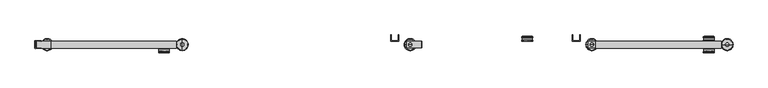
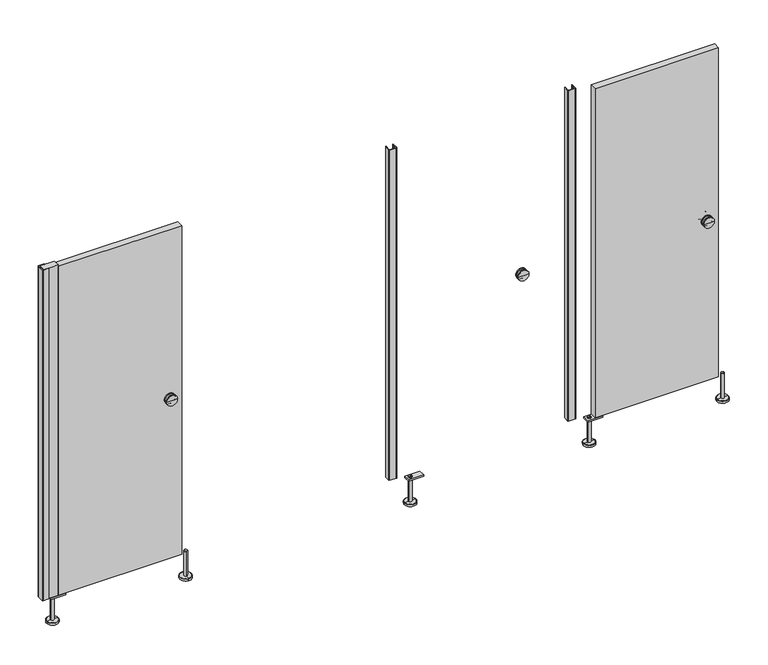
"""IFC4 building model written with IfcOpenShell, lengths in millimetres: proxy geometry, Partition_EuroStyle-Bradley_Corp-ADA-4StandardStall-NEP-LOFT : Partition_EuroStyle-Bradley_Corp-ADA-4StandardStall-NEP-LOFT."""

from ifc_helpers import new_model, si_unit, point, frame, frame_2d, origin, place, context, project, spatial, polyline, circle_curve, ellipse_curve, trimmed, segment, composite_curve, outline, extrude, source, transform, mapped, element, save
from ifc_brep_helpers import plane_surface, cylinder_surface, revolved_surface, advanced_brep


def specialty_equipment_6bcbe845(model_context):
    return source(origin(), model_context, "Body", "SolidModel", [
        advanced_brep(
        [(548.6, -1560.0203251, 1050.0), (577.175, -1560.0203251, 1050.0), (520.025, -1560.0203251, 1050.0), (577.175, -1564.7828251, 1050.0), (520.025, -1564.7828251, 1050.0), (520.025, -1579.0703251, 1050.0), (577.175, -1579.0703251, 1050.0), (577.175, -1583.8328251, 1050.0), (520.025, -1583.8328251, 1050.0), (521.6125, -1577.4828251, 1050.0), (575.5875, -1577.4828251, 1050.0), (521.6125, -1566.3703251, 1050.0), (575.5875, -1566.3703251, 1050.0), (548.6, -1585.4203251, 1050.0)],
        [
            (0, 1),
            (1, 2, circle_curve(frame((548.6, -1560.0203251, 1050.0), z_axis=(0.0, 1.0, 0.0), x_axis=(1.0000000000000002, 0.0, 0.0)), 28.575)),
            (2, 0),
            (2, 1, circle_curve(frame((548.6, -1560.0203251, 1050.0), z_axis=(0.0, 1.0, 0.0), x_axis=(1.0000000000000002, 0.0, 0.0)), 28.575)),
            (1, 3),
            (3, 4, circle_curve(frame((548.6, -1564.7828251, 1050.0), z_axis=(0.0, 1.0, 0.0), x_axis=(1.0000000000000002, 0.0, 0.0)), 28.575)),
            (4, 2),
            (4, 3, circle_curve(frame((548.6, -1564.7828251, 1050.0), z_axis=(0.0, 1.0, 0.0), x_axis=(1.0000000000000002, 0.0, 0.0)), 28.575)),
            (5, 6, circle_curve(frame((548.6, -1579.0703251, 1050.0), z_axis=(0.0, -1.0, 0.0), x_axis=(1.0000000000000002, 0.0, 0.0)), 28.575)),
            (6, 7),
            (7, 8, circle_curve(frame((548.6, -1583.8328251, 1050.0), z_axis=(0.0, 1.0, 0.0), x_axis=(1.0000000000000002, 0.0, 0.0)), 28.575)),
            (8, 5),
            (6, 5, circle_curve(frame((548.6, -1579.0703251, 1050.0), z_axis=(0.0, -1.0, 0.0), x_axis=(1.0000000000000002, 0.0, 0.0)), 28.575)),
            (8, 7, circle_curve(frame((548.6, -1583.8328251, 1050.0), z_axis=(0.0, 1.0, 0.0), x_axis=(1.0000000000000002, 0.0, 0.0)), 28.575)),
            (9, 10, circle_curve(frame((548.6, -1577.4828251, 1050.0), z_axis=(0.0, -1.0, 0.0), x_axis=(1.0000000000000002, 0.0, 0.0)), 26.9875)),
            (10, 6, circle_curve(frame((577.175, -1577.4828251, 1050.0), z_axis=(0.0, 0.0, 1.0), x_axis=(1.0000000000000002, 0.0, 0.0)), 1.5875)),
            (5, 9, circle_curve(frame((520.025, -1577.4828251, 1050.0), z_axis=(0.0, 0.0, 1.0), x_axis=(-1.0000000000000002, 0.0, 0.0)), 1.5875)),
            (10, 9, circle_curve(frame((548.6, -1577.4828251, 1050.0), z_axis=(0.0, -1.0, 0.0), x_axis=(1.0000000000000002, 0.0, 0.0)), 26.9875)),
            (11, 12, circle_curve(frame((548.6, -1566.3703251, 1050.0), z_axis=(0.0, -1.0, 0.0), x_axis=(1.0000000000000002, 0.0, 0.0)), 26.9875)),
            (12, 10),
            (9, 11),
            (12, 11, circle_curve(frame((548.6, -1566.3703251, 1050.0), z_axis=(0.0, -1.0, 0.0), x_axis=(1.0000000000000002, 0.0, 0.0)), 26.9875)),
            (3, 12, circle_curve(frame((577.175, -1566.3703251, 1050.0), z_axis=(0.0, 0.0, 1.0), x_axis=(1.0000000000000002, 0.0, 0.0)), 1.5875)),
            (11, 4, circle_curve(frame((520.025, -1566.3703251, 1050.0), z_axis=(0.0, 0.0, 1.0), x_axis=(-1.0000000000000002, 0.0, 0.0)), 1.5875)),
            (7, 13, circle_curve(frame((552.2941234, -1393.9457959, 1050.0), z_axis=(0.0, 0.0, -1.0), x_axis=(1.0000000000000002, 0.0, 0.0)), 191.5101613)),
            (13, 8, circle_curve(frame((544.9058766, -1393.9457959, 1050.0), z_axis=(0.0, 0.0, -1.0), x_axis=(-1.0000000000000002, 0.0, 0.0)), 191.5101613)),
        ],
        [
            plane_surface(frame((548.6, -1560.0203251, 1050.0), z_axis=(0.0, 1.0, 0.0), x_axis=(1.0, 0.0, 0.0))),
            cylinder_surface(frame((548.6, -1560.0203251, 1050.0), z_axis=(0.0, 1.0000000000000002, 0.0), x_axis=(1.0000000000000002, 0.0, 0.0)), 28.575),
            revolved_surface(trimmed(ellipse_curve(frame((577.175, -1577.4828251, 1050.0), z_axis=(0.0, 0.0, -1.0), x_axis=(1.0000000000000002, 0.0, 0.0)), 1.5875, 1.5875), [point((577.175, -1579.0703251, 1050.0))], [point((575.5875, -1577.4828251, 1050.0))], True, "CARTESIAN"), (548.6, -1560.0203251, 1050.0), (0.0, 1.0000000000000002, 0.0)),
            cylinder_surface(frame((548.6, -1560.0203251, 1050.0), z_axis=(0.0, 1.0000000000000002, 0.0), x_axis=(1.0000000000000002, 0.0, 0.0)), 26.9875),
            revolved_surface(trimmed(ellipse_curve(frame((577.175, -1566.3703251, 1050.0), z_axis=(0.0, 0.0, -1.0), x_axis=(1.0000000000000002, 0.0, 0.0)), 1.5875, 1.5875), [point((575.5875, -1566.3703251, 1050.0))], [point((577.175, -1564.7828251, 1050.0))], True, "CARTESIAN"), (548.6, -1560.0203251, 1050.0), (0.0, 1.0000000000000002, 0.0)),
            revolved_surface(trimmed(ellipse_curve(frame((552.2941234, -1393.9457959, 1050.0), z_axis=(0.0, 0.0, 1.0), x_axis=(1.0000000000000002, 0.0, 0.0)), 191.5101613, 191.5101613), [point((548.6, -1585.4203251, 1050.0))], [point((577.175, -1583.8328251, 1050.0))], True, "CARTESIAN"), (548.6, -1560.0203251, 1050.0), (0.0, 1.0000000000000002, 0.0)),
        ],
        [
            (0, [[1, 2, 3]]),
            (0, [[-3, 4, -1]]),
            (1, [[-2, 5, 6, 7]]),
            (1, [[-4, -7, 8, -5]]),
            (1, [[9, 10, 11, 12]]),
            (1, [[13, -12, 14, -10]]),
            (2, [[15, 16, -9, 17]]),
            (2, [[18, -17, -13, -16]]),
            (3, [[19, 20, -15, 21]]),
            (3, [[22, -21, -18, -20]]),
            (4, [[-6, 23, -19, 24]]),
            (4, [[-8, -24, -22, -23]]),
            (5, [[-11, 25, 26]]),
            (5, [[-14, -26, -25]]),
        ],
    ),
        extrude(outline(polyline([(-43.0030863, -1524.0), (612.1, -1524.0), (612.1, -1560.0203251), (-43.0030863, -1560.0203251), (-43.0030863, -1524.0)])), frame((0.0, 0.0, 150.0), z_axis=(0.0, 0.0, 1.0), x_axis=(1.0, 0.0, 0.0)), (0.0, 0.0, 1.0), 1846.0),
        extrude(outline(composite_curve([segment(polyline([(-94.4999998, -1521.518717), (-94.4999998, -1523.0173026)]), True, "CONTINUOUS"), segment(trimmed(circle_curve(frame_2d((-95.4990918, -1523.0137352)), 0.9990984), [point((-94.4999998, -1523.0173026))], [point((-96.3787798, -1523.4873879))], False, "CARTESIAN"), True, "CONTINUOUS"), segment(polyline([(-96.3787798, -1523.4873879), (-103.6424298, -1523.3662779)]), True, "CONTINUOUS"), segment(trimmed(circle_curve(frame_2d((-104.4999449, -1522.848732)), 1.0015917), [point((-103.6424298, -1523.3662779))], [point((-105.3742398, -1523.3373979))], False, "CARTESIAN"), True, "CONTINUOUS"), segment(polyline([(-105.3742398, -1523.3373979), (-123.0104531, -1523.0433424)]), True, "CONTINUOUS"), segment(trimmed(circle_curve(frame_2d((-122.9997796, -1525.0435342)), 2.0002204), [point((-123.0104531, -1523.0433424))], [point((-125.0, -1525.0435342))], True, "CARTESIAN"), True, "CONTINUOUS"), segment(polyline([(-125.0, -1525.0435342), (-125.0, -1558.9278332)]), True, "CONTINUOUS"), segment(trimmed(circle_curve(frame_2d((-123.0009061, -1558.9768528)), 1.9996948), [point((-125.0, -1558.9278332))], [point((-123.0, -1560.9765475))], True, "CARTESIAN"), True, "CONTINUOUS"), segment(polyline([(-123.0, -1560.9765475), (-105.3739987, -1560.6824961)]), True, "CONTINUOUS"), segment(trimmed(circle_curve(frame_2d((-104.4999449, -1561.1715932)), 1.0015917), [point((-105.3739987, -1560.6824961))], [point((-103.6424298, -1560.6540473))], False, "CARTESIAN"), True, "CONTINUOUS"), segment(polyline([(-103.6424298, -1560.6540473), (-96.3787798, -1560.5329373)]), True, "CONTINUOUS"), segment(trimmed(circle_curve(frame_2d((-95.4990918, -1561.0065899)), 0.9990984), [point((-96.3787798, -1560.5329373))], [point((-94.4999998, -1561.0030225))], False, "CARTESIAN"), True, "CONTINUOUS"), segment(polyline([(-94.4999998, -1561.0030225), (-94.4999998, -1562.5016081), (-124.97082, -1563.0099473)]), True, "CONTINUOUS"), segment(trimmed(circle_curve(frame_2d((-124.97082, -1560.9807672)), 2.02918), [point((-124.97082, -1563.0099473))], [point((-127.0, -1560.9807672))], False, "CARTESIAN"), True, "CONTINUOUS"), segment(polyline([(-127.0, -1560.9807672), (-127.0, -1523.0395579)]), True, "CONTINUOUS"), segment(trimmed(circle_curve(frame_2d((-124.97082, -1523.0395579)), 2.02918), [point((-127.0, -1523.0395579))], [point((-124.97082, -1521.0103779))], False, "CARTESIAN"), True, "CONTINUOUS"), segment(polyline([(-124.97082, -1521.0103779), (-94.4999998, -1521.518717)]), True, "CONTINUOUS")], self_intersect=False)), frame((0.0, 0.0, 150.0), z_axis=(0.0, 0.0, 1.0), x_axis=(1.0, 0.0, 0.0)), (0.0, 0.0, 1.0), 1855.0),
        extrude(outline(polyline([(146.0000008, -82.1018307), (138.0669895, -82.1018307), (138.0669895, -2.2545975), (146.0000008, -2.3531596), (146.0000008, -82.1018307)])), frame((0.0, -1559.4726626, 0.0), z_axis=(0.0, 1.0, 0.0), x_axis=(0.0, 0.0, 1.0)), (0.0, 0.0, 1.0), 34.925),
        advanced_brep(
        [(-54.5018316, -1542.0101626, 150.0000008), (-72.501831, -1542.0101626, 150.0000008), (-72.501831, -1542.0101626, 12.0000001), (-54.5018316, -1542.0101626, 12.0000001), (-63.5018313, -1542.0101626, 150.0000008), (-32.5018323, -1542.0101626, 0.0), (-94.5018302, -1542.0101626, 0.0), (-63.5018313, -1542.0101626, 0.0), (-32.5018323, -1542.0101626, 10.0000001), (-94.5018302, -1542.0101626, 10.0000001), (-34.5042443, -1542.0101626, 12.0000001), (-92.4994183, -1542.0101626, 12.0000001)],
        [
            (0, 1, circle_curve(frame((-63.5018313, -1542.0101626, 150.0000008), z_axis=(0.0, 0.0, -1.0), x_axis=(-1.0, 0.0, 0.0)), 8.9999997)),
            (1, 2),
            (2, 3, circle_curve(frame((-63.5018313, -1542.0101626, 12.0000001), z_axis=(0.0, 0.0, 1.0), x_axis=(-1.0, 0.0, 0.0)), 8.9999997)),
            (3, 0),
            (1, 0, circle_curve(frame((-63.5018313, -1542.0101626, 150.0000008), z_axis=(0.0, 0.0, -1.0), x_axis=(-1.0, 0.0, 0.0)), 8.9999997)),
            (3, 2, circle_curve(frame((-63.5018313, -1542.0101626, 12.0000001), z_axis=(0.0, 0.0, 1.0), x_axis=(-1.0, 0.0, 0.0)), 8.9999997)),
            (4, 1),
            (0, 4),
            (5, 6, circle_curve(frame((-63.5018313, -1542.0101626, 0.0), z_axis=(0.0, 0.0, -1.0), x_axis=(-1.0, 0.0, 0.0)), 30.9999989)),
            (6, 7),
            (7, 5),
            (6, 5, circle_curve(frame((-63.5018313, -1542.0101626, 0.0), z_axis=(0.0, 0.0, -1.0), x_axis=(-1.0, 0.0, 0.0)), 30.9999989)),
            (8, 9, circle_curve(frame((-63.5018313, -1542.0101626, 10.0000001), z_axis=(0.0, 0.0, -1.0), x_axis=(-1.0, 0.0, 0.0)), 30.9999989)),
            (9, 6),
            (5, 8),
            (9, 8, circle_curve(frame((-63.5018313, -1542.0101626, 10.0000001), z_axis=(0.0, 0.0, -1.0), x_axis=(-1.0, 0.0, 0.0)), 30.9999989)),
            (10, 11, circle_curve(frame((-63.5018313, -1542.0101626, 12.0000001), z_axis=(0.0, 0.0, -1.0), x_axis=(-1.0, 0.0, 0.0)), 28.997587)),
            (11, 9),
            (8, 10),
            (11, 10, circle_curve(frame((-63.5018313, -1542.0101626, 12.0000001), z_axis=(0.0, 0.0, -1.0), x_axis=(-1.0, 0.0, 0.0)), 28.997587)),
            (2, 11),
            (10, 3),
        ],
        [
            cylinder_surface(frame((-63.5018313, -1542.0101626, 0.0), z_axis=(0.0, 0.0, 1.0), x_axis=(-1.0, 0.0, 0.0)), 8.9999997),
            plane_surface(frame((-63.5018313, -1542.0101626, 150.0000008), z_axis=(0.0, 0.0, 1.0), x_axis=(-1.0, 0.0, 0.0))),
            plane_surface(frame((-63.5018313, -1542.0101626, 0.0), z_axis=(0.0, 0.0, -1.0), x_axis=(-1.0, 0.0, 0.0))),
            cylinder_surface(frame((-63.5018313, -1542.0101626, 0.0), z_axis=(0.0, 0.0, 1.0), x_axis=(-1.0, 0.0, 0.0)), 30.9999989),
            revolved_surface(polyline([(-94.5018302, -1542.0101626, 10.0000001), (-92.4994183, -1542.0101626, 12.0000001)]), (-63.5018313, -1542.0101626, 0.0), (0.0, 0.0, 1.0)),
            plane_surface(frame((-63.5018313, -1542.0101626, 12.0000001), z_axis=(0.0, 0.0, 1.0), x_axis=(-1.0, 0.0, 0.0))),
        ],
        [
            (0, [[1, 2, 3, 4]]),
            (0, [[5, -4, 6, -2]]),
            (1, [[7, -1, 8]]),
            (1, [[-8, -5, -7]]),
            (2, [[9, 10, 11]]),
            (2, [[12, -11, -10]]),
            (3, [[13, 14, -9, 15]]),
            (3, [[16, -15, -12, -14]]),
            (4, [[17, 18, -13, 19]]),
            (4, [[20, -19, -16, -18]]),
            (5, [[-3, 21, -17, 22]]),
            (5, [[-6, -22, -20, -21]]),
        ],
    ),
        extrude(outline(polyline([(-117.000072, -1524.0), (-43.0032348, -1524.0), (-43.0032348, -1560.0203251), (-117.000072, -1560.0203251), (-117.000072, -1524.0)])), frame((0.0, 0.0, 150.0), z_axis=(0.0, 0.0, 1.0), x_axis=(1.0, 0.0, 0.0)), (0.0, 0.0, 1.0), 1855.0),
        advanced_brep(
        [(644.0351626, -1532.9996552, 150.0000008), (644.0351626, -1550.9996545, 150.0000008), (644.0351626, -1550.9996545, 12.0000001), (644.0351626, -1532.9996552, 12.0000001), (644.0351626, -1541.9996549, 150.0000008), (644.0351626, -1510.9996559, 0.0), (644.0351626, -1572.9996538, 0.0), (644.0351626, -1541.9996549, 0.0), (644.0351626, -1510.9996559, 10.0000001), (644.0351626, -1572.9996538, 10.0000001), (644.0351626, -1513.0020678, 12.0000001), (644.0351626, -1570.9972419, 12.0000001)],
        [
            (0, 1, circle_curve(frame((644.0351626, -1541.9996549, 150.0000008), z_axis=(0.0, 0.0, -1.0), x_axis=(0.0, -1.0, 0.0)), 8.9999997)),
            (1, 2),
            (2, 3, circle_curve(frame((644.0351626, -1541.9996549, 12.0000001), z_axis=(0.0, 0.0, 1.0), x_axis=(0.0, -1.0, 0.0)), 8.9999997)),
            (3, 0),
            (1, 0, circle_curve(frame((644.0351626, -1541.9996549, 150.0000008), z_axis=(0.0, 0.0, -1.0), x_axis=(0.0, -1.0, 0.0)), 8.9999997)),
            (3, 2, circle_curve(frame((644.0351626, -1541.9996549, 12.0000001), z_axis=(0.0, 0.0, 1.0), x_axis=(0.0, -1.0, 0.0)), 8.9999997)),
            (4, 1),
            (0, 4),
            (5, 6, circle_curve(frame((644.0351626, -1541.9996549, 0.0), z_axis=(0.0, 0.0, -1.0), x_axis=(0.0, -1.0, 0.0)), 30.9999989)),
            (6, 7),
            (7, 5),
            (6, 5, circle_curve(frame((644.0351626, -1541.9996549, 0.0), z_axis=(0.0, 0.0, -1.0), x_axis=(0.0, -1.0, 0.0)), 30.9999989)),
            (8, 9, circle_curve(frame((644.0351626, -1541.9996549, 10.0000001), z_axis=(0.0, 0.0, -1.0), x_axis=(0.0, -1.0, 0.0)), 30.9999989)),
            (9, 6),
            (5, 8),
            (9, 8, circle_curve(frame((644.0351626, -1541.9996549, 10.0000001), z_axis=(0.0, 0.0, -1.0), x_axis=(0.0, -1.0, 0.0)), 30.9999989)),
            (10, 11, circle_curve(frame((644.0351626, -1541.9996549, 12.0000001), z_axis=(0.0, 0.0, -1.0), x_axis=(0.0, -1.0, 0.0)), 28.997587)),
            (11, 9),
            (8, 10),
            (11, 10, circle_curve(frame((644.0351626, -1541.9996549, 12.0000001), z_axis=(0.0, 0.0, -1.0), x_axis=(0.0, -1.0, 0.0)), 28.997587)),
            (2, 11),
            (10, 3),
        ],
        [
            cylinder_surface(frame((644.0351626, -1541.9996549, 0.0), z_axis=(0.0, 0.0, 1.0), x_axis=(0.0, -1.0, 0.0)), 8.9999997),
            plane_surface(frame((644.0351626, -1541.9996549, 150.0000008), z_axis=(0.0, 0.0, 1.0), x_axis=(0.0, -1.0, 0.0))),
            plane_surface(frame((644.0351626, -1541.9996549, 0.0), z_axis=(0.0, 0.0, -1.0), x_axis=(0.0, -1.0, 0.0))),
            cylinder_surface(frame((644.0351626, -1541.9996549, 0.0), z_axis=(0.0, 0.0, 1.0), x_axis=(0.0, -1.0, 0.0)), 30.9999989),
            revolved_surface(polyline([(644.0351626, -1572.9996538, 10.0000001), (644.0351626, -1570.9972419, 12.0000001)]), (644.0351626, -1541.9996549, 0.0), (0.0, 0.0, 1.0)),
            plane_surface(frame((644.0351626, -1541.9996549, 12.0000001), z_axis=(0.0, 0.0, 1.0), x_axis=(0.0, -1.0, 0.0))),
        ],
        [
            (0, [[1, 2, 3, 4]]),
            (0, [[5, -4, 6, -2]]),
            (1, [[7, -1, 8]]),
            (1, [[-8, -5, -7]]),
            (2, [[9, 10, 11]]),
            (2, [[12, -11, -10]]),
            (3, [[13, 14, -9, 15]]),
            (3, [[16, -15, -12, -14]]),
            (4, [[17, 18, -13, 19]]),
            (4, [[20, -19, -16, -18]]),
            (5, [[-3, 21, -17, 22]]),
            (5, [[-6, -22, -20, -21]]),
        ],
    ),
        extrude(outline(polyline([(146.0000008, 2768.6203258), (138.0669895, 2768.6203258), (138.0669895, 2848.4675589), (146.0000008, 2848.3689968), (146.0000008, 2768.6203258)])), frame((0.0, -1559.4621549, 0.0), z_axis=(0.0, 1.0, 0.0), x_axis=(0.0, 0.0, 1.0)), (0.0, 0.0, 1.0), 34.925),
        advanced_brep(
        [(2796.2203248, -1541.9996549, 150.0000008), (2778.2203255, -1541.9996549, 150.0000008), (2778.2203255, -1541.9996549, 12.0000001), (2796.2203248, -1541.9996549, 12.0000001), (2787.2203251, -1541.9996549, 150.0000008), (2818.2203241, -1541.9996549, 0.0), (2756.2203262, -1541.9996549, 0.0), (2787.2203251, -1541.9996549, 0.0), (2818.2203241, -1541.9996549, 10.0000001), (2756.2203262, -1541.9996549, 10.0000001), (2816.2179122, -1541.9996549, 12.0000001), (2758.2227381, -1541.9996549, 12.0000001)],
        [
            (0, 1, circle_curve(frame((2787.2203251, -1541.9996549, 150.0000008), z_axis=(0.0, 0.0, -1.0), x_axis=(-1.0, 0.0, 0.0)), 8.9999997)),
            (1, 2),
            (2, 3, circle_curve(frame((2787.2203251, -1541.9996549, 12.0000001), z_axis=(0.0, 0.0, 1.0), x_axis=(-1.0, 0.0, 0.0)), 8.9999997)),
            (3, 0),
            (1, 0, circle_curve(frame((2787.2203251, -1541.9996549, 150.0000008), z_axis=(0.0, 0.0, -1.0), x_axis=(-1.0, 0.0, 0.0)), 8.9999997)),
            (3, 2, circle_curve(frame((2787.2203251, -1541.9996549, 12.0000001), z_axis=(0.0, 0.0, 1.0), x_axis=(-1.0, 0.0, 0.0)), 8.9999997)),
            (4, 1),
            (0, 4),
            (5, 6, circle_curve(frame((2787.2203251, -1541.9996549, 0.0), z_axis=(0.0, 0.0, -1.0), x_axis=(-1.0, 0.0, 0.0)), 30.9999989)),
            (6, 7),
            (7, 5),
            (6, 5, circle_curve(frame((2787.2203251, -1541.9996549, 0.0), z_axis=(0.0, 0.0, -1.0), x_axis=(-1.0, 0.0, 0.0)), 30.9999989)),
            (8, 9, circle_curve(frame((2787.2203251, -1541.9996549, 10.0000001), z_axis=(0.0, 0.0, -1.0), x_axis=(-1.0, 0.0, 0.0)), 30.9999989)),
            (9, 6),
            (5, 8),
            (9, 8, circle_curve(frame((2787.2203251, -1541.9996549, 10.0000001), z_axis=(0.0, 0.0, -1.0), x_axis=(-1.0, 0.0, 0.0)), 30.9999989)),
            (10, 11, circle_curve(frame((2787.2203251, -1541.9996549, 12.0000001), z_axis=(0.0, 0.0, -1.0), x_axis=(-1.0, 0.0, 0.0)), 28.997587)),
            (11, 9),
            (8, 10),
            (11, 10, circle_curve(frame((2787.2203251, -1541.9996549, 12.0000001), z_axis=(0.0, 0.0, -1.0), x_axis=(-1.0, 0.0, 0.0)), 28.997587)),
            (2, 11),
            (10, 3),
        ],
        [
            cylinder_surface(frame((2787.2203251, -1541.9996549, 0.0), z_axis=(0.0, 0.0, 1.0), x_axis=(-1.0, 0.0, 0.0)), 8.9999997),
            plane_surface(frame((2787.2203251, -1541.9996549, 150.0000008), z_axis=(0.0, 0.0, 1.0), x_axis=(-1.0, 0.0, 0.0))),
            plane_surface(frame((2787.2203251, -1541.9996549, 0.0), z_axis=(0.0, 0.0, -1.0), x_axis=(-1.0, 0.0, 0.0))),
            cylinder_surface(frame((2787.2203251, -1541.9996549, 0.0), z_axis=(0.0, 0.0, 1.0), x_axis=(-1.0, 0.0, 0.0)), 30.9999989),
            revolved_surface(polyline([(2756.2203262, -1541.9996549, 10.0000001), (2758.2227381, -1541.9996549, 12.0000001)]), (2787.2203251, -1541.9996549, 0.0), (0.0, 0.0, 1.0)),
            plane_surface(frame((2787.2203251, -1541.9996549, 12.0000001), z_axis=(0.0, 0.0, 1.0), x_axis=(-1.0, 0.0, 0.0))),
        ],
        [
            (0, [[1, 2, 3, 4]]),
            (0, [[5, -4, 6, -2]]),
            (1, [[7, -1, 8]]),
            (1, [[-8, -5, -7]]),
            (2, [[9, 10, 11]]),
            (2, [[12, -11, -10]]),
            (3, [[13, 14, -9, 15]]),
            (3, [[16, -15, -12, -14]]),
            (4, [[17, 18, -13, 19]]),
            (4, [[20, -19, -16, -18]]),
            (5, [[-3, 21, -17, 22]]),
            (5, [[-6, -22, -20, -21]]),
        ],
    ),
        extrude(outline(polyline([(146.0000008, 1818.2203258), (138.0669895, 1818.2203258), (138.0669895, 1898.0675589), (146.0000008, 1897.9689968), (146.0000008, 1818.2203258)])), frame((0.0, -1559.4621549, 0.0), z_axis=(0.0, 1.0, 0.0), x_axis=(0.0, 0.0, 1.0)), (0.0, 0.0, 1.0), 34.925),
        advanced_brep(
        [(1845.8203248, -1541.9996549, 150.0000008), (1827.8203255, -1541.9996549, 150.0000008), (1827.8203255, -1541.9996549, 12.0000001), (1845.8203248, -1541.9996549, 12.0000001), (1836.8203251, -1541.9996549, 150.0000008), (1867.8203241, -1541.9996549, 0.0), (1805.8203262, -1541.9996549, 0.0), (1836.8203251, -1541.9996549, 0.0), (1867.8203241, -1541.9996549, 10.0000001), (1805.8203262, -1541.9996549, 10.0000001), (1865.8179122, -1541.9996549, 12.0000001), (1807.8227381, -1541.9996549, 12.0000001)],
        [
            (0, 1, circle_curve(frame((1836.8203251, -1541.9996549, 150.0000008), z_axis=(0.0, 0.0, -1.0), x_axis=(-1.0, 0.0, 0.0)), 8.9999997)),
            (1, 2),
            (2, 3, circle_curve(frame((1836.8203251, -1541.9996549, 12.0000001), z_axis=(0.0, 0.0, 1.0), x_axis=(-1.0, 0.0, 0.0)), 8.9999997)),
            (3, 0),
            (1, 0, circle_curve(frame((1836.8203251, -1541.9996549, 150.0000008), z_axis=(0.0, 0.0, -1.0), x_axis=(-1.0, 0.0, 0.0)), 8.9999997)),
            (3, 2, circle_curve(frame((1836.8203251, -1541.9996549, 12.0000001), z_axis=(0.0, 0.0, 1.0), x_axis=(-1.0, 0.0, 0.0)), 8.9999997)),
            (4, 1),
            (0, 4),
            (5, 6, circle_curve(frame((1836.8203251, -1541.9996549, 0.0), z_axis=(0.0, 0.0, -1.0), x_axis=(-1.0, 0.0, 0.0)), 30.9999989)),
            (6, 7),
            (7, 5),
            (6, 5, circle_curve(frame((1836.8203251, -1541.9996549, 0.0), z_axis=(0.0, 0.0, -1.0), x_axis=(-1.0, 0.0, 0.0)), 30.9999989)),
            (8, 9, circle_curve(frame((1836.8203251, -1541.9996549, 10.0000001), z_axis=(0.0, 0.0, -1.0), x_axis=(-1.0, 0.0, 0.0)), 30.9999989)),
            (9, 6),
            (5, 8),
            (9, 8, circle_curve(frame((1836.8203251, -1541.9996549, 10.0000001), z_axis=(0.0, 0.0, -1.0), x_axis=(-1.0, 0.0, 0.0)), 30.9999989)),
            (10, 11, circle_curve(frame((1836.8203251, -1541.9996549, 12.0000001), z_axis=(0.0, 0.0, -1.0), x_axis=(-1.0, 0.0, 0.0)), 28.997587)),
            (11, 9),
            (8, 10),
            (11, 10, circle_curve(frame((1836.8203251, -1541.9996549, 12.0000001), z_axis=(0.0, 0.0, -1.0), x_axis=(-1.0, 0.0, 0.0)), 28.997587)),
            (2, 11),
            (10, 3),
        ],
        [
            cylinder_surface(frame((1836.8203251, -1541.9996549, 0.0), z_axis=(0.0, 0.0, 1.0), x_axis=(-1.0, 0.0, 0.0)), 8.9999997),
            plane_surface(frame((1836.8203251, -1541.9996549, 150.0000008), z_axis=(0.0, 0.0, 1.0), x_axis=(-1.0, 0.0, 0.0))),
            plane_surface(frame((1836.8203251, -1541.9996549, 0.0), z_axis=(0.0, 0.0, -1.0), x_axis=(-1.0, 0.0, 0.0))),
            cylinder_surface(frame((1836.8203251, -1541.9996549, 0.0), z_axis=(0.0, 0.0, 1.0), x_axis=(-1.0, 0.0, 0.0)), 30.9999989),
            revolved_surface(polyline([(1805.8203262, -1541.9996549, 10.0000001), (1807.8227381, -1541.9996549, 12.0000001)]), (1836.8203251, -1541.9996549, 0.0), (0.0, 0.0, 1.0)),
            plane_surface(frame((1836.8203251, -1541.9996549, 12.0000001), z_axis=(0.0, 0.0, 1.0), x_axis=(-1.0, 0.0, 0.0))),
        ],
        [
            (0, [[1, 2, 3, 4]]),
            (0, [[5, -4, 6, -2]]),
            (1, [[7, -1, 8]]),
            (1, [[-8, -5, -7]]),
            (2, [[9, 10, 11]]),
            (2, [[12, -11, -10]]),
            (3, [[13, 14, -9, 15]]),
            (3, [[16, -15, -12, -14]]),
            (4, [[17, 18, -13, 19]]),
            (4, [[20, -19, -16, -18]]),
            (5, [[-3, 21, -17, 22]]),
            (5, [[-6, -22, -20, -21]]),
        ],
    ),
        advanced_brep(
        [(3371.2451766, -1524.0098174, 1050.0), (3428.3951766, -1524.0098174, 1050.0), (3399.8201766, -1524.0098174, 1050.0), (3371.2451766, -1519.2473174, 1050.0), (3428.3951766, -1519.2473174, 1050.0), (3371.2451766, -1500.1973174, 1050.0), (3428.3951766, -1500.1973174, 1050.0), (3428.3951766, -1504.9598174, 1050.0), (3371.2451766, -1504.9598174, 1050.0), (3426.8076766, -1506.5473174, 1050.0), (3372.8326766, -1506.5473174, 1050.0), (3426.8076766, -1517.6598174, 1050.0), (3372.8326766, -1517.6598174, 1050.0), (3399.8201766, -1498.6098174, 1050.0)],
        [
            (0, 1, circle_curve(frame((3399.8201766, -1524.0098174, 1050.0), z_axis=(0.0, -1.0, 0.0), x_axis=(1.0000000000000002, 0.0, 0.0)), 28.575)),
            (1, 2),
            (2, 0),
            (1, 0, circle_curve(frame((3399.8201766, -1524.0098174, 1050.0), z_axis=(0.0, -1.0, 0.0), x_axis=(1.0000000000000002, 0.0, 0.0)), 28.575)),
            (3, 4, circle_curve(frame((3399.8201766, -1519.2473174, 1050.0), z_axis=(0.0, -1.0, 0.0), x_axis=(1.0000000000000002, 0.0, 0.0)), 28.575)),
            (4, 1),
            (0, 3),
            (4, 3, circle_curve(frame((3399.8201766, -1519.2473174, 1050.0), z_axis=(0.0, -1.0, 0.0), x_axis=(1.0000000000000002, 0.0, 0.0)), 28.575)),
            (5, 6, circle_curve(frame((3399.8201766, -1500.1973174, 1050.0), z_axis=(0.0, -1.0, 0.0), x_axis=(1.0000000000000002, 0.0, 0.0)), 28.575)),
            (6, 7),
            (7, 8, circle_curve(frame((3399.8201766, -1504.9598174, 1050.0), z_axis=(0.0, 1.0, 0.0), x_axis=(1.0000000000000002, 0.0, 0.0)), 28.575)),
            (8, 5),
            (6, 5, circle_curve(frame((3399.8201766, -1500.1973174, 1050.0), z_axis=(0.0, -1.0, 0.0), x_axis=(1.0000000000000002, 0.0, 0.0)), 28.575)),
            (8, 7, circle_curve(frame((3399.8201766, -1504.9598174, 1050.0), z_axis=(0.0, 1.0, 0.0), x_axis=(1.0000000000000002, 0.0, 0.0)), 28.575)),
            (7, 9, circle_curve(frame((3428.3951766, -1506.5473174, 1050.0), z_axis=(0.0, 0.0, 1.0), x_axis=(1.0000000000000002, 0.0, 0.0)), 1.5875)),
            (9, 10, circle_curve(frame((3399.8201766, -1506.5473174, 1050.0), z_axis=(0.0, 1.0, 0.0), x_axis=(1.0000000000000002, 0.0, 0.0)), 26.9875)),
            (10, 8, circle_curve(frame((3371.2451766, -1506.5473174, 1050.0), z_axis=(0.0, 0.0, 1.0), x_axis=(-1.0000000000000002, 0.0, 0.0)), 1.5875)),
            (10, 9, circle_curve(frame((3399.8201766, -1506.5473174, 1050.0), z_axis=(0.0, 1.0, 0.0), x_axis=(1.0000000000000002, 0.0, 0.0)), 26.9875)),
            (9, 11),
            (11, 12, circle_curve(frame((3399.8201766, -1517.6598174, 1050.0), z_axis=(0.0, 1.0, 0.0), x_axis=(1.0000000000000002, 0.0, 0.0)), 26.9875)),
            (12, 10),
            (12, 11, circle_curve(frame((3399.8201766, -1517.6598174, 1050.0), z_axis=(0.0, 1.0, 0.0), x_axis=(1.0000000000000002, 0.0, 0.0)), 26.9875)),
            (11, 4, circle_curve(frame((3428.3951766, -1517.6598174, 1050.0), z_axis=(0.0, 0.0, 1.0), x_axis=(1.0000000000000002, 0.0, 0.0)), 1.5875)),
            (3, 12, circle_curve(frame((3371.2451766, -1517.6598174, 1050.0), z_axis=(0.0, 0.0, 1.0), x_axis=(-1.0000000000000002, 0.0, 0.0)), 1.5875)),
            (13, 6, circle_curve(frame((3403.5143, -1690.0843466, 1050.0), z_axis=(0.0, 0.0, -1.0), x_axis=(1.0000000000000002, 0.0, 0.0)), 191.5101613)),
            (5, 13, circle_curve(frame((3396.1260533, -1690.0843466, 1050.0), z_axis=(0.0, 0.0, -1.0), x_axis=(-1.0000000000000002, 0.0, 0.0)), 191.5101613)),
        ],
        [
            plane_surface(frame((3399.8201766, -1524.0098174, 1050.0), z_axis=(0.0, -1.0, 0.0), x_axis=(1.0, 0.0, 0.0))),
            cylinder_surface(frame((3399.8201766, -1524.0098174, 1050.0), z_axis=(0.0, 1.0000000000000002, 0.0), x_axis=(1.0000000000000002, 0.0, 0.0)), 28.575),
            revolved_surface(trimmed(ellipse_curve(frame((3428.3951766, -1506.5473174, 1050.0), z_axis=(0.0, 0.0, -1.0), x_axis=(1.0000000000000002, 0.0, 0.0)), 1.5875, 1.5875), [point((3426.8076766, -1506.5473174, 1050.0))], [point((3428.3951766, -1504.9598174, 1050.0))], True, "CARTESIAN"), (3399.8201766, -1524.0098174, 1050.0), (0.0, 1.0000000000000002, 0.0)),
            cylinder_surface(frame((3399.8201766, -1524.0098174, 1050.0), z_axis=(0.0, 1.0000000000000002, 0.0), x_axis=(1.0000000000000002, 0.0, 0.0)), 26.9875),
            revolved_surface(trimmed(ellipse_curve(frame((3428.3951766, -1517.6598174, 1050.0), z_axis=(0.0, 0.0, -1.0), x_axis=(1.0000000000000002, 0.0, 0.0)), 1.5875, 1.5875), [point((3428.3951766, -1519.2473174, 1050.0))], [point((3426.8076766, -1517.6598174, 1050.0))], True, "CARTESIAN"), (3399.8201766, -1524.0098174, 1050.0), (0.0, 1.0000000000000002, 0.0)),
            revolved_surface(trimmed(ellipse_curve(frame((3403.5143, -1690.0843466, 1050.0), z_axis=(0.0, 0.0, 1.0), x_axis=(1.0000000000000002, 0.0, 0.0)), 191.5101613, 191.5101613), [point((3428.3951766, -1500.1973174, 1050.0))], [point((3399.8201766, -1498.6098174, 1050.0))], True, "CARTESIAN"), (3399.8201766, -1524.0098174, 1050.0), (0.0, 1.0000000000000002, 0.0)),
        ],
        [
            (0, [[1, 2, 3]]),
            (0, [[4, -3, -2]]),
            (1, [[5, 6, -1, 7]]),
            (1, [[8, -7, -4, -6]]),
            (1, [[9, 10, 11, 12]]),
            (1, [[13, -12, 14, -10]]),
            (2, [[-11, 15, 16, 17]]),
            (2, [[-14, -17, 18, -15]]),
            (3, [[-16, 19, 20, 21]]),
            (3, [[-18, -21, 22, -19]]),
            (4, [[-20, 23, -5, 24]]),
            (4, [[-22, -24, -8, -23]]),
            (5, [[25, -9, 26]]),
            (5, [[-26, -13, -25]]),
        ],
    ),
        advanced_brep(
        [(3399.8201766, -1560.0098174, 1050.0), (3428.3951766, -1560.0098174, 1050.0), (3371.2451766, -1560.0098174, 1050.0), (3428.3951766, -1564.7723174, 1050.0), (3371.2451766, -1564.7723174, 1050.0), (3371.2451766, -1579.0598174, 1050.0), (3428.3951766, -1579.0598174, 1050.0), (3428.3951766, -1583.8223174, 1050.0), (3371.2451766, -1583.8223174, 1050.0), (3372.8326766, -1577.4723174, 1050.0), (3426.8076766, -1577.4723174, 1050.0), (3372.8326766, -1566.3598174, 1050.0), (3426.8076766, -1566.3598174, 1050.0), (3399.8201766, -1585.4098174, 1050.0)],
        [
            (0, 1),
            (1, 2, circle_curve(frame((3399.8201766, -1560.0098174, 1050.0), z_axis=(0.0, 1.0, 0.0), x_axis=(1.0000000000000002, 0.0, 0.0)), 28.575)),
            (2, 0),
            (2, 1, circle_curve(frame((3399.8201766, -1560.0098174, 1050.0), z_axis=(0.0, 1.0, 0.0), x_axis=(1.0000000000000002, 0.0, 0.0)), 28.575)),
            (1, 3),
            (3, 4, circle_curve(frame((3399.8201766, -1564.7723174, 1050.0), z_axis=(0.0, 1.0, 0.0), x_axis=(1.0000000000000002, 0.0, 0.0)), 28.575)),
            (4, 2),
            (4, 3, circle_curve(frame((3399.8201766, -1564.7723174, 1050.0), z_axis=(0.0, 1.0, 0.0), x_axis=(1.0000000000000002, 0.0, 0.0)), 28.575)),
            (5, 6, circle_curve(frame((3399.8201766, -1579.0598174, 1050.0), z_axis=(0.0, -1.0, 0.0), x_axis=(1.0000000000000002, 0.0, 0.0)), 28.575)),
            (6, 7),
            (7, 8, circle_curve(frame((3399.8201766, -1583.8223174, 1050.0), z_axis=(0.0, 1.0, 0.0), x_axis=(1.0000000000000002, 0.0, 0.0)), 28.575)),
            (8, 5),
            (6, 5, circle_curve(frame((3399.8201766, -1579.0598174, 1050.0), z_axis=(0.0, -1.0, 0.0), x_axis=(1.0000000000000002, 0.0, 0.0)), 28.575)),
            (8, 7, circle_curve(frame((3399.8201766, -1583.8223174, 1050.0), z_axis=(0.0, 1.0, 0.0), x_axis=(1.0000000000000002, 0.0, 0.0)), 28.575)),
            (9, 10, circle_curve(frame((3399.8201766, -1577.4723174, 1050.0), z_axis=(0.0, -1.0, 0.0), x_axis=(1.0000000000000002, 0.0, 0.0)), 26.9875)),
            (10, 6, circle_curve(frame((3428.3951766, -1577.4723174, 1050.0), z_axis=(0.0, 0.0, 1.0), x_axis=(1.0000000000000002, 0.0, 0.0)), 1.5875)),
            (5, 9, circle_curve(frame((3371.2451766, -1577.4723174, 1050.0), z_axis=(0.0, 0.0, 1.0), x_axis=(-1.0000000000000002, 0.0, 0.0)), 1.5875)),
            (10, 9, circle_curve(frame((3399.8201766, -1577.4723174, 1050.0), z_axis=(0.0, -1.0, 0.0), x_axis=(1.0000000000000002, 0.0, 0.0)), 26.9875)),
            (11, 12, circle_curve(frame((3399.8201766, -1566.3598174, 1050.0), z_axis=(0.0, -1.0, 0.0), x_axis=(1.0000000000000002, 0.0, 0.0)), 26.9875)),
            (12, 10),
            (9, 11),
            (12, 11, circle_curve(frame((3399.8201766, -1566.3598174, 1050.0), z_axis=(0.0, -1.0, 0.0), x_axis=(1.0000000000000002, 0.0, 0.0)), 26.9875)),
            (3, 12, circle_curve(frame((3428.3951766, -1566.3598174, 1050.0), z_axis=(0.0, 0.0, 1.0), x_axis=(1.0000000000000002, 0.0, 0.0)), 1.5875)),
            (11, 4, circle_curve(frame((3371.2451766, -1566.3598174, 1050.0), z_axis=(0.0, 0.0, 1.0), x_axis=(-1.0000000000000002, 0.0, 0.0)), 1.5875)),
            (7, 13, circle_curve(frame((3403.5143, -1393.9352882, 1050.0), z_axis=(0.0, 0.0, -1.0), x_axis=(1.0000000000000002, 0.0, 0.0)), 191.5101613)),
            (13, 8, circle_curve(frame((3396.1260533, -1393.9352882, 1050.0), z_axis=(0.0, 0.0, -1.0), x_axis=(-1.0000000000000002, 0.0, 0.0)), 191.5101613)),
        ],
        [
            plane_surface(frame((3399.8201766, -1560.0098174, 1050.0), z_axis=(0.0, 1.0, 0.0), x_axis=(1.0, 0.0, 0.0))),
            cylinder_surface(frame((3399.8201766, -1560.0098174, 1050.0), z_axis=(0.0, 1.0000000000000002, 0.0), x_axis=(1.0000000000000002, 0.0, 0.0)), 28.575),
            revolved_surface(trimmed(ellipse_curve(frame((3428.3951766, -1577.4723174, 1050.0), z_axis=(0.0, 0.0, -1.0), x_axis=(1.0000000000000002, 0.0, 0.0)), 1.5875, 1.5875), [point((3428.3951766, -1579.0598174, 1050.0))], [point((3426.8076766, -1577.4723174, 1050.0))], True, "CARTESIAN"), (3399.8201766, -1560.0098174, 1050.0), (0.0, 1.0000000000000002, 0.0)),
            cylinder_surface(frame((3399.8201766, -1560.0098174, 1050.0), z_axis=(0.0, 1.0000000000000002, 0.0), x_axis=(1.0000000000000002, 0.0, 0.0)), 26.9875),
            revolved_surface(trimmed(ellipse_curve(frame((3428.3951766, -1566.3598174, 1050.0), z_axis=(0.0, 0.0, -1.0), x_axis=(1.0000000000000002, 0.0, 0.0)), 1.5875, 1.5875), [point((3426.8076766, -1566.3598174, 1050.0))], [point((3428.3951766, -1564.7723174, 1050.0))], True, "CARTESIAN"), (3399.8201766, -1560.0098174, 1050.0), (0.0, 1.0000000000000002, 0.0)),
            revolved_surface(trimmed(ellipse_curve(frame((3403.5143, -1393.9352882, 1050.0), z_axis=(0.0, 0.0, 1.0), x_axis=(1.0000000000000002, 0.0, 0.0)), 191.5101613, 191.5101613), [point((3399.8201766, -1585.4098174, 1050.0))], [point((3428.3951766, -1583.8223174, 1050.0))], True, "CARTESIAN"), (3399.8201766, -1560.0098174, 1050.0), (0.0, 1.0000000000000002, 0.0)),
        ],
        [
            (0, [[1, 2, 3]]),
            (0, [[-3, 4, -1]]),
            (1, [[-2, 5, 6, 7]]),
            (1, [[-4, -7, 8, -5]]),
            (1, [[9, 10, 11, 12]]),
            (1, [[13, -12, 14, -10]]),
            (2, [[15, 16, -9, 17]]),
            (2, [[18, -17, -13, -16]]),
            (3, [[19, 20, -15, 21]]),
            (3, [[22, -21, -18, -20]]),
            (4, [[-6, 23, -19, 24]]),
            (4, [[-8, -24, -22, -23]]),
            (5, [[-11, 25, 26]]),
            (5, [[-14, -26, -25]]),
        ],
    ),
        extrude(outline(polyline([(2808.2170903, -1523.9894923), (3463.3201766, -1523.9894923), (3463.3201766, -1560.0098174), (2808.2170903, -1560.0098174), (2808.2170903, -1523.9894923)])), frame((0.0, 0.0, 150.0), z_axis=(0.0, 0.0, 1.0), x_axis=(1.0, 0.0, 0.0)), (0.0, 0.0, 1.0), 1846.0),
        extrude(outline(composite_curve([segment(polyline([(2685.7288796, -1491.4999998), (2687.2274652, -1491.4999998)]), True, "CONTINUOUS"), segment(trimmed(circle_curve(frame_2d((2687.2238978, -1492.4990918)), 0.9990984), [point((2687.2274652, -1491.4999998))], [point((2687.6975504, -1493.3787798))], False, "CARTESIAN"), True, "CONTINUOUS"), segment(polyline([(2687.6975504, -1493.3787798), (2687.5764404, -1500.6424298)]), True, "CONTINUOUS"), segment(trimmed(circle_curve(frame_2d((2687.0588945, -1501.4999449)), 1.0015917), [point((2687.5764404, -1500.6424298))], [point((2687.5475604, -1502.3742398))], False, "CARTESIAN"), True, "CONTINUOUS"), segment(polyline([(2687.5475604, -1502.3742398), (2687.2535049, -1520.0104531)]), True, "CONTINUOUS"), segment(trimmed(circle_curve(frame_2d((2689.2536968, -1519.9997796)), 2.0002204), [point((2687.2535049, -1520.0104531))], [point((2689.2536968, -1522.0))], True, "CARTESIAN"), True, "CONTINUOUS"), segment(polyline([(2689.2536968, -1522.0), (2723.1379958, -1522.0)]), True, "CONTINUOUS"), segment(trimmed(circle_curve(frame_2d((2723.1870154, -1520.0009061)), 1.9996948), [point((2723.1379958, -1522.0))], [point((2725.18671, -1520.0))], True, "CARTESIAN"), True, "CONTINUOUS"), segment(polyline([(2725.18671, -1520.0), (2724.8926587, -1502.3739987)]), True, "CONTINUOUS"), segment(trimmed(circle_curve(frame_2d((2725.3817558, -1501.4999449)), 1.0015917), [point((2724.8926587, -1502.3739987))], [point((2724.8642099, -1500.6424298))], False, "CARTESIAN"), True, "CONTINUOUS"), segment(polyline([(2724.8642099, -1500.6424298), (2724.7430999, -1493.3787798)]), True, "CONTINUOUS"), segment(trimmed(circle_curve(frame_2d((2725.2167525, -1492.4990918)), 0.9990984), [point((2724.7430999, -1493.3787798))], [point((2725.2131851, -1491.4999998))], False, "CARTESIAN"), True, "CONTINUOUS"), segment(polyline([(2725.2131851, -1491.4999998), (2726.7117707, -1491.4999998), (2727.2201098, -1521.97082)]), True, "CONTINUOUS"), segment(trimmed(circle_curve(frame_2d((2725.1909298, -1521.97082)), 2.02918), [point((2727.2201098, -1521.97082))], [point((2725.1909298, -1524.0))], False, "CARTESIAN"), True, "CONTINUOUS"), segment(polyline([(2725.1909298, -1524.0), (2687.2497205, -1524.0)]), True, "CONTINUOUS"), segment(trimmed(circle_curve(frame_2d((2687.2497205, -1521.97082)), 2.02918), [point((2687.2497205, -1524.0))], [point((2685.2205405, -1521.97082))], False, "CARTESIAN"), True, "CONTINUOUS"), segment(polyline([(2685.2205405, -1521.97082), (2685.7288796, -1491.4999998)]), True, "CONTINUOUS")], self_intersect=False)), frame((0.0, 0.0, 150.0), z_axis=(0.0, 0.0, 1.0), x_axis=(1.0, 0.0, 0.0)), (0.0, 0.0, 1.0), 1855.0),
        advanced_brep(
        [(3486.2453255, -1541.9996549, 150.0000008), (3504.2453248, -1541.9996549, 150.0000008), (3504.2453248, -1541.9996549, 12.0000001), (3486.2453255, -1541.9996549, 12.0000001), (3495.2453251, -1541.9996549, 150.0000008), (3464.2453262, -1541.9996549, 0.0), (3526.2453241, -1541.9996549, 0.0), (3495.2453251, -1541.9996549, 0.0), (3464.2453262, -1541.9996549, 10.0000001), (3526.2453241, -1541.9996549, 10.0000001), (3466.2477381, -1541.9996549, 12.0000001), (3524.2429122, -1541.9996549, 12.0000001)],
        [
            (0, 1, circle_curve(frame((3495.2453251, -1541.9996549, 150.0000008), z_axis=(0.0, 0.0, -1.0), x_axis=(1.0, 0.0, 0.0)), 8.9999997)),
            (1, 2),
            (2, 3, circle_curve(frame((3495.2453251, -1541.9996549, 12.0000001), z_axis=(0.0, 0.0, 1.0), x_axis=(1.0, 0.0, 0.0)), 8.9999997)),
            (3, 0),
            (1, 0, circle_curve(frame((3495.2453251, -1541.9996549, 150.0000008), z_axis=(0.0, 0.0, -1.0), x_axis=(1.0, 0.0, 0.0)), 8.9999997)),
            (3, 2, circle_curve(frame((3495.2453251, -1541.9996549, 12.0000001), z_axis=(0.0, 0.0, 1.0), x_axis=(1.0, 0.0, 0.0)), 8.9999997)),
            (4, 1),
            (0, 4),
            (5, 6, circle_curve(frame((3495.2453251, -1541.9996549, 0.0), z_axis=(0.0, 0.0, -1.0), x_axis=(1.0, 0.0, 0.0)), 30.9999989)),
            (6, 7),
            (7, 5),
            (6, 5, circle_curve(frame((3495.2453251, -1541.9996549, 0.0), z_axis=(0.0, 0.0, -1.0), x_axis=(1.0, 0.0, 0.0)), 30.9999989)),
            (8, 9, circle_curve(frame((3495.2453251, -1541.9996549, 10.0000001), z_axis=(0.0, 0.0, -1.0), x_axis=(1.0, 0.0, 0.0)), 30.9999989)),
            (9, 6),
            (5, 8),
            (9, 8, circle_curve(frame((3495.2453251, -1541.9996549, 10.0000001), z_axis=(0.0, 0.0, -1.0), x_axis=(1.0, 0.0, 0.0)), 30.9999989)),
            (10, 11, circle_curve(frame((3495.2453251, -1541.9996549, 12.0000001), z_axis=(0.0, 0.0, -1.0), x_axis=(1.0, 0.0, 0.0)), 28.997587)),
            (11, 9),
            (8, 10),
            (11, 10, circle_curve(frame((3495.2453251, -1541.9996549, 12.0000001), z_axis=(0.0, 0.0, -1.0), x_axis=(1.0, 0.0, 0.0)), 28.997587)),
            (2, 11),
            (10, 3),
        ],
        [
            cylinder_surface(frame((3495.2453251, -1541.9996549, 0.0), z_axis=(0.0, 0.0, 1.0), x_axis=(1.0, 0.0, 0.0)), 8.9999997),
            plane_surface(frame((3495.2453251, -1541.9996549, 150.0000008), z_axis=(0.0, 0.0, 1.0), x_axis=(1.0, 0.0, 0.0))),
            plane_surface(frame((3495.2453251, -1541.9996549, 0.0), z_axis=(0.0, 0.0, -1.0), x_axis=(1.0, 0.0, 0.0))),
            cylinder_surface(frame((3495.2453251, -1541.9996549, 0.0), z_axis=(0.0, 0.0, 1.0), x_axis=(1.0, 0.0, 0.0)), 30.9999989),
            revolved_surface(polyline([(3526.2453241, -1541.9996549, 10.0000001), (3524.2429122, -1541.9996549, 12.0000001)]), (3495.2453251, -1541.9996549, 0.0), (0.0, 0.0, 1.0)),
            plane_surface(frame((3495.2453251, -1541.9996549, 12.0000001), z_axis=(0.0, 0.0, 1.0), x_axis=(1.0, 0.0, 0.0))),
        ],
        [
            (0, [[1, 2, 3, 4]]),
            (0, [[5, -4, 6, -2]]),
            (1, [[7, -1, 8]]),
            (1, [[-8, -5, -7]]),
            (2, [[9, 10, 11]]),
            (2, [[12, -11, -10]]),
            (3, [[13, 14, -9, 15]]),
            (3, [[16, -15, -12, -14]]),
            (4, [[17, 18, -13, 19]]),
            (4, [[20, -19, -16, -18]]),
            (5, [[-3, 21, -17, 22]]),
            (5, [[-6, -22, -20, -21]]),
        ],
    ),
        extrude(outline(composite_curve([segment(polyline([(1735.3288796, -1491.4999998), (1736.8274652, -1491.4999998)]), True, "CONTINUOUS"), segment(trimmed(circle_curve(frame_2d((1736.8238978, -1492.4990918)), 0.9990984), [point((1736.8274652, -1491.4999998))], [point((1737.2975504, -1493.3787798))], False, "CARTESIAN"), True, "CONTINUOUS"), segment(polyline([(1737.2975504, -1493.3787798), (1737.1764404, -1500.6424298)]), True, "CONTINUOUS"), segment(trimmed(circle_curve(frame_2d((1736.6588945, -1501.4999449)), 1.0015917), [point((1737.1764404, -1500.6424298))], [point((1737.1475604, -1502.3742398))], False, "CARTESIAN"), True, "CONTINUOUS"), segment(polyline([(1737.1475604, -1502.3742398), (1736.8535049, -1520.0104531)]), True, "CONTINUOUS"), segment(trimmed(circle_curve(frame_2d((1738.8536968, -1519.9997796)), 2.0002204), [point((1736.8535049, -1520.0104531))], [point((1738.8536968, -1522.0))], True, "CARTESIAN"), True, "CONTINUOUS"), segment(polyline([(1738.8536968, -1522.0), (1772.7379958, -1522.0)]), True, "CONTINUOUS"), segment(trimmed(circle_curve(frame_2d((1772.7870154, -1520.0009061)), 1.9996948), [point((1772.7379958, -1522.0))], [point((1774.78671, -1520.0))], True, "CARTESIAN"), True, "CONTINUOUS"), segment(polyline([(1774.78671, -1520.0), (1774.4926587, -1502.3739987)]), True, "CONTINUOUS"), segment(trimmed(circle_curve(frame_2d((1774.9817558, -1501.4999449)), 1.0015917), [point((1774.4926587, -1502.3739987))], [point((1774.4642099, -1500.6424298))], False, "CARTESIAN"), True, "CONTINUOUS"), segment(polyline([(1774.4642099, -1500.6424298), (1774.3430999, -1493.3787798)]), True, "CONTINUOUS"), segment(trimmed(circle_curve(frame_2d((1774.8167525, -1492.4990918)), 0.9990984), [point((1774.3430999, -1493.3787798))], [point((1774.8131851, -1491.4999998))], False, "CARTESIAN"), True, "CONTINUOUS"), segment(polyline([(1774.8131851, -1491.4999998), (1776.3117707, -1491.4999998), (1776.8201098, -1521.97082)]), True, "CONTINUOUS"), segment(trimmed(circle_curve(frame_2d((1774.7909298, -1521.97082)), 2.02918), [point((1776.8201098, -1521.97082))], [point((1774.7909298, -1524.0))], False, "CARTESIAN"), True, "CONTINUOUS"), segment(polyline([(1774.7909298, -1524.0), (1736.8497205, -1524.0)]), True, "CONTINUOUS"), segment(trimmed(circle_curve(frame_2d((1736.8497205, -1521.97082)), 2.02918), [point((1736.8497205, -1524.0))], [point((1734.8205405, -1521.97082))], False, "CARTESIAN"), True, "CONTINUOUS"), segment(polyline([(1734.8205405, -1521.97082), (1735.3288796, -1491.4999998)]), True, "CONTINUOUS")], self_intersect=False)), frame((0.0, 0.0, 150.0), z_axis=(0.0, 0.0, 1.0), x_axis=(1.0, 0.0, 0.0)), (0.0, 0.0, 1.0), 1855.0),
        advanced_brep(
        [(2420.8451766, -1524.0098174, 1050.0), (2477.9951766, -1524.0098174, 1050.0), (2449.4201766, -1524.0098174, 1050.0), (2420.8451766, -1519.2473174, 1050.0), (2477.9951766, -1519.2473174, 1050.0), (2420.8451766, -1500.1973174, 1050.0), (2477.9951766, -1500.1973174, 1050.0), (2477.9951766, -1504.9598174, 1050.0), (2420.8451766, -1504.9598174, 1050.0), (2476.4076766, -1506.5473174, 1050.0), (2422.4326766, -1506.5473174, 1050.0), (2476.4076766, -1517.6598174, 1050.0), (2422.4326766, -1517.6598174, 1050.0), (2449.4201766, -1498.6098174, 1050.0)],
        [
            (0, 1, circle_curve(frame((2449.4201766, -1524.0098174, 1050.0), z_axis=(0.0, -1.0, 0.0), x_axis=(1.0000000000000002, 0.0, 0.0)), 28.575)),
            (1, 2),
            (2, 0),
            (1, 0, circle_curve(frame((2449.4201766, -1524.0098174, 1050.0), z_axis=(0.0, -1.0, 0.0), x_axis=(1.0000000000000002, 0.0, 0.0)), 28.575)),
            (3, 4, circle_curve(frame((2449.4201766, -1519.2473174, 1050.0), z_axis=(0.0, -1.0, 0.0), x_axis=(1.0000000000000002, 0.0, 0.0)), 28.575)),
            (4, 1),
            (0, 3),
            (4, 3, circle_curve(frame((2449.4201766, -1519.2473174, 1050.0), z_axis=(0.0, -1.0, 0.0), x_axis=(1.0000000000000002, 0.0, 0.0)), 28.575)),
            (5, 6, circle_curve(frame((2449.4201766, -1500.1973174, 1050.0), z_axis=(0.0, -1.0, 0.0), x_axis=(1.0000000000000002, 0.0, 0.0)), 28.575)),
            (6, 7),
            (7, 8, circle_curve(frame((2449.4201766, -1504.9598174, 1050.0), z_axis=(0.0, 1.0, 0.0), x_axis=(1.0000000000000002, 0.0, 0.0)), 28.575)),
            (8, 5),
            (6, 5, circle_curve(frame((2449.4201766, -1500.1973174, 1050.0), z_axis=(0.0, -1.0, 0.0), x_axis=(1.0000000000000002, 0.0, 0.0)), 28.575)),
            (8, 7, circle_curve(frame((2449.4201766, -1504.9598174, 1050.0), z_axis=(0.0, 1.0, 0.0), x_axis=(1.0000000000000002, 0.0, 0.0)), 28.575)),
            (7, 9, circle_curve(frame((2477.9951766, -1506.5473174, 1050.0), z_axis=(0.0, 0.0, 1.0), x_axis=(1.0000000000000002, 0.0, 0.0)), 1.5875)),
            (9, 10, circle_curve(frame((2449.4201766, -1506.5473174, 1050.0), z_axis=(0.0, 1.0, 0.0), x_axis=(1.0000000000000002, 0.0, 0.0)), 26.9875)),
            (10, 8, circle_curve(frame((2420.8451766, -1506.5473174, 1050.0), z_axis=(0.0, 0.0, 1.0), x_axis=(-1.0000000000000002, 0.0, 0.0)), 1.5875)),
            (10, 9, circle_curve(frame((2449.4201766, -1506.5473174, 1050.0), z_axis=(0.0, 1.0, 0.0), x_axis=(1.0000000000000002, 0.0, 0.0)), 26.9875)),
            (9, 11),
            (11, 12, circle_curve(frame((2449.4201766, -1517.6598174, 1050.0), z_axis=(0.0, 1.0, 0.0), x_axis=(1.0000000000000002, 0.0, 0.0)), 26.9875)),
            (12, 10),
            (12, 11, circle_curve(frame((2449.4201766, -1517.6598174, 1050.0), z_axis=(0.0, 1.0, 0.0), x_axis=(1.0000000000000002, 0.0, 0.0)), 26.9875)),
            (11, 4, circle_curve(frame((2477.9951766, -1517.6598174, 1050.0), z_axis=(0.0, 0.0, 1.0), x_axis=(1.0000000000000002, 0.0, 0.0)), 1.5875)),
            (3, 12, circle_curve(frame((2420.8451766, -1517.6598174, 1050.0), z_axis=(0.0, 0.0, 1.0), x_axis=(-1.0000000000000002, 0.0, 0.0)), 1.5875)),
            (13, 6, circle_curve(frame((2453.1143, -1690.0843466, 1050.0), z_axis=(0.0, 0.0, -1.0), x_axis=(1.0000000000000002, 0.0, 0.0)), 191.5101613)),
            (5, 13, circle_curve(frame((2445.7260533, -1690.0843466, 1050.0), z_axis=(0.0, 0.0, -1.0), x_axis=(-1.0000000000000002, 0.0, 0.0)), 191.5101613)),
        ],
        [
            plane_surface(frame((2449.4201766, -1524.0098174, 1050.0), z_axis=(0.0, -1.0, 0.0), x_axis=(1.0, 0.0, 0.0))),
            cylinder_surface(frame((2449.4201766, -1524.0098174, 1050.0), z_axis=(0.0, 1.0000000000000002, 0.0), x_axis=(1.0000000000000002, 0.0, 0.0)), 28.575),
            revolved_surface(trimmed(ellipse_curve(frame((2477.9951766, -1506.5473174, 1050.0), z_axis=(0.0, 0.0, -1.0), x_axis=(1.0000000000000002, 0.0, 0.0)), 1.5875, 1.5875), [point((2476.4076766, -1506.5473174, 1050.0))], [point((2477.9951766, -1504.9598174, 1050.0))], True, "CARTESIAN"), (2449.4201766, -1524.0098174, 1050.0), (0.0, 1.0000000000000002, 0.0)),
            cylinder_surface(frame((2449.4201766, -1524.0098174, 1050.0), z_axis=(0.0, 1.0000000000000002, 0.0), x_axis=(1.0000000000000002, 0.0, 0.0)), 26.9875),
            revolved_surface(trimmed(ellipse_curve(frame((2477.9951766, -1517.6598174, 1050.0), z_axis=(0.0, 0.0, -1.0), x_axis=(1.0000000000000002, 0.0, 0.0)), 1.5875, 1.5875), [point((2477.9951766, -1519.2473174, 1050.0))], [point((2476.4076766, -1517.6598174, 1050.0))], True, "CARTESIAN"), (2449.4201766, -1524.0098174, 1050.0), (0.0, 1.0000000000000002, 0.0)),
            revolved_surface(trimmed(ellipse_curve(frame((2453.1143, -1690.0843466, 1050.0), z_axis=(0.0, 0.0, 1.0), x_axis=(1.0000000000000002, 0.0, 0.0)), 191.5101613, 191.5101613), [point((2477.9951766, -1500.1973174, 1050.0))], [point((2449.4201766, -1498.6098174, 1050.0))], True, "CARTESIAN"), (2449.4201766, -1524.0098174, 1050.0), (0.0, 1.0000000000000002, 0.0)),
        ],
        [
            (0, [[1, 2, 3]]),
            (0, [[4, -3, -2]]),
            (1, [[5, 6, -1, 7]]),
            (1, [[8, -7, -4, -6]]),
            (1, [[9, 10, 11, 12]]),
            (1, [[13, -12, 14, -10]]),
            (2, [[-11, 15, 16, 17]]),
            (2, [[-14, -17, 18, -15]]),
            (3, [[-16, 19, 20, 21]]),
            (3, [[-18, -21, 22, -19]]),
            (4, [[-20, 23, -5, 24]]),
            (4, [[-22, -24, -8, -23]]),
            (5, [[25, -9, 26]]),
            (5, [[-26, -13, -25]]),
        ],
    ),
    ])


if __name__ == "__main__":
    model = new_model("IFC4")
    model_context = context("Model", 3, world=origin())
    ifc_project = project(units=[si_unit("LENGTHUNIT", "METRE", prefix="MILLI")], contexts=[model_context])
    site = spatial("IfcSite", under=ifc_project)
    building = spatial("IfcBuilding", under=site)
    placement = place(None, origin())
    specialty_equipment_shape = specialty_equipment_6bcbe845(model_context)
    element("IfcBuildingElementProxy", 1, Name="Partition_EuroStyle-Bradley_Corp-ADA-4StandardStall-NEP-LOFT : Partition_EuroStyle-Bradley_Corp-ADA-4StandardStall-NEP-LOFT", ObjectType="Partition_EuroStyle-Bradley_Corp-ADA-4StandardStall-NEP-LOFT : Partition_EuroStyle-Bradley_Corp-ADA-4StandardStall-NEP-LOFT", at=placement, inside=building, context=model_context, shape_type="MappedRepresentation", body=[
        mapped(specialty_equipment_shape, transform((0.0, 0.0, 0.0), x_axis=(1.0, 0.0, 0.0), y_axis=(0.0, 1.0, 0.0), z_axis=(0.0, 0.0, 1.0))),
    ])
    save(model, "model.ifc")
